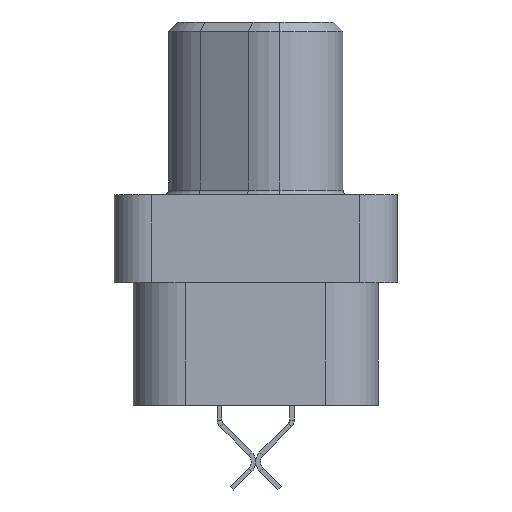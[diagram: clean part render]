
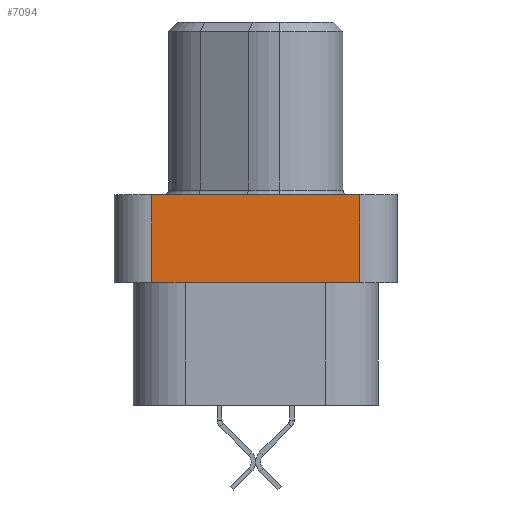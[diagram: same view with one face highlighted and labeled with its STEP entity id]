
A CAD part, left-side view. The second image highlights one B-rep face of the part: STEP entity #7094.
In plain terms, the highlighted planar face has unit normal (-1, 0, 0).
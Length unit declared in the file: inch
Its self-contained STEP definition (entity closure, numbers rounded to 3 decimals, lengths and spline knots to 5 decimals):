
#274 = VERTEX_POINT ( 'NONE', #11555 ) ;
#1388 = DIRECTION ( 'NONE',  ( -1., 0., 0. ) ) ;
#2464 = VECTOR ( 'NONE', #2672, 39.37008 ) ;
#2672 = DIRECTION ( 'NONE',  ( 0., 0., -1. ) ) ;
#2693 = CARTESIAN_POINT ( 'NONE',  ( -0.3875, -0.11, 0.042 ) ) ;
#2798 = LINE ( 'NONE', #7030, #2464 ) ;
#5831 = CARTESIAN_POINT ( 'NONE',  ( -0.3875, 0.11, 0.042 ) ) ;
#6428 = FACE_OUTER_BOUND ( 'NONE', #21301, .T. ) ;
#7030 = CARTESIAN_POINT ( 'NONE',  ( -0.3875, 0.11, 0.042 ) ) ;
#7094 = ADVANCED_FACE ( 'NONE', ( #6428 ), #19243, .T. ) ;
#7761 = LINE ( 'NONE', #11970, #24573 ) ;
#8721 = LINE ( 'NONE', #23727, #21475 ) ;
#8840 = DIRECTION ( 'NONE',  ( 0., 1., 0. ) ) ;
#9618 = EDGE_CURVE ( 'NONE', #9739, #274, #8721, .T. ) ;
#9702 = DIRECTION ( 'NONE',  ( 0., 0., 1. ) ) ;
#9739 = VERTEX_POINT ( 'NONE', #21946 ) ;
#11005 = DIRECTION ( 'NONE',  ( 0., 1., 0. ) ) ;
#11555 = CARTESIAN_POINT ( 'NONE',  ( -0.3875, 0.11, -0.051 ) ) ;
#11858 = AXIS2_PLACEMENT_3D ( 'NONE', #15278, #1388, #9702 ) ;
#11970 = CARTESIAN_POINT ( 'NONE',  ( -0.3875, -0.11, 0.042 ) ) ;
#15274 = ORIENTED_EDGE ( 'NONE', *, *, #9618, .F. ) ;
#15278 = CARTESIAN_POINT ( 'NONE',  ( -0.3875, -0.11, 0.042 ) ) ;
#15818 = VERTEX_POINT ( 'NONE', #5831 ) ;
#16053 = EDGE_CURVE ( 'NONE', #17497, #15818, #19208, .T. ) ;
#16536 = ORIENTED_EDGE ( 'NONE', *, *, #16053, .T. ) ;
#17199 = ORIENTED_EDGE ( 'NONE', *, *, #19732, .T. ) ;
#17213 = CARTESIAN_POINT ( 'NONE',  ( -0.3875, -0.11, 0.042 ) ) ;
#17497 = VERTEX_POINT ( 'NONE', #17213 ) ;
#19208 = LINE ( 'NONE', #2693, #20696 ) ;
#19243 = PLANE ( 'NONE',  #11858 ) ;
#19732 = EDGE_CURVE ( 'NONE', #15818, #274, #2798, .T. ) ;
#20696 = VECTOR ( 'NONE', #8840, 39.37008 ) ;
#21301 = EDGE_LOOP ( 'NONE', ( #15274, #22621, #16536, #17199 ) ) ;
#21475 = VECTOR ( 'NONE', #11005, 39.37008 ) ;
#21946 = CARTESIAN_POINT ( 'NONE',  ( -0.3875, -0.11, -0.051 ) ) ;
#22244 = DIRECTION ( 'NONE',  ( 0., 0., -1. ) ) ;
#22621 = ORIENTED_EDGE ( 'NONE', *, *, #25609, .F. ) ;
#23727 = CARTESIAN_POINT ( 'NONE',  ( -0.3875, -0.11, -0.051 ) ) ;
#24573 = VECTOR ( 'NONE', #22244, 39.37008 ) ;
#25609 = EDGE_CURVE ( 'NONE', #17497, #9739, #7761, .T. ) ;
